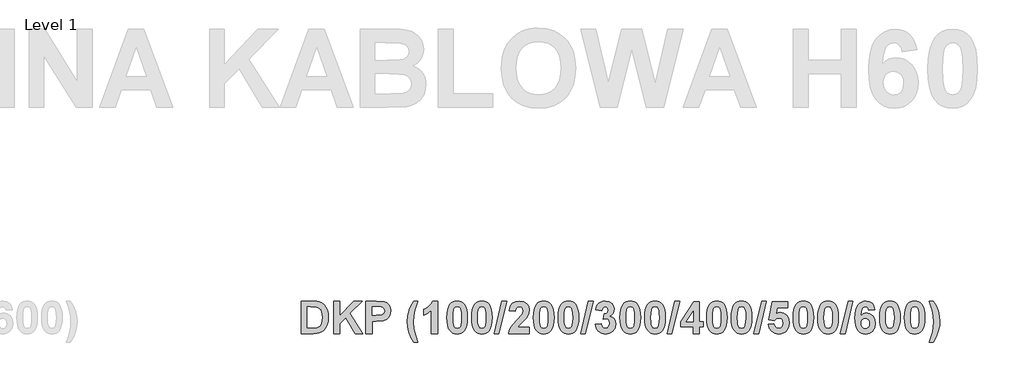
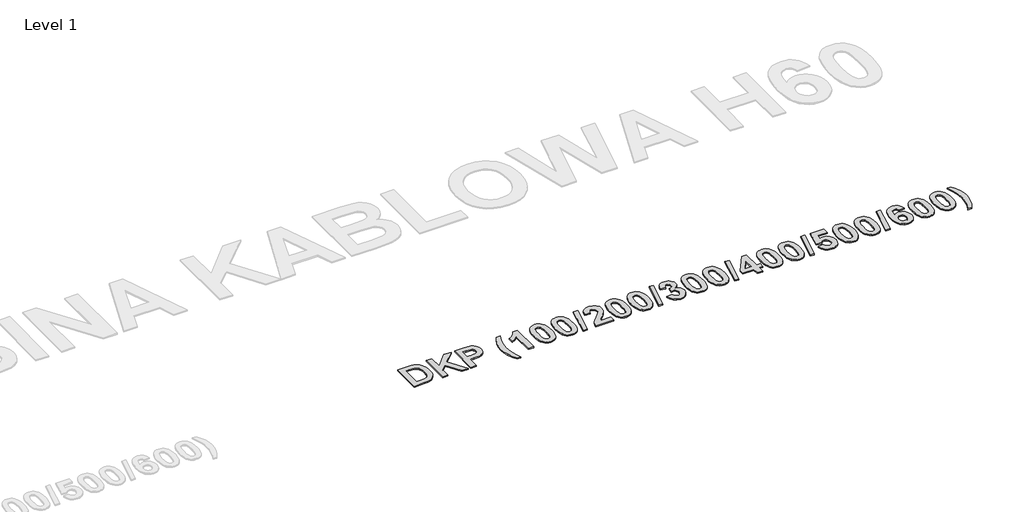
# One storey, part 42 of 42: 1 proxy.
"""IFC4 building model written with IfcOpenShell, lengths in millimetres."""

from ifc_helpers import new_model, si_unit, origin, origin_with_axes, place, context, project, spatial, polyline, outline, extrude, element, save

model = new_model("IFC4")

# Units and contexts
model_context = context("Model", 3, world=origin())
ifc_project = project(units=[si_unit("LENGTHUNIT", "METRE", prefix="MILLI")], contexts=[model_context])

# Site, building, storey
site = spatial("IfcSite", under=ifc_project)
building = spatial("IfcBuilding", under=site)
storey = spatial("IfcBuildingStorey", under=building, Name="Level 1", Elevation=0.0)

# Proxy
placement = place(None, origin())
element("IfcBuildingElementProxy", 1, Name="300mm Arial 2", ObjectType="300mm Arial 2", at=placement, inside=storey, context=model_context, shape_type="SweptSolid", body=[
    extrude(outline(polyline([(37906.8730509, 21442.68636), (38001.3204272, 21442.68636), (38029.4711857, 21441.4686025), (38050.0307284, 21437.8153299), (38070.9382018, 21428.6188883), (38088.6194086, 21414.314191), (38102.7659555, 21395.5575621), (38113.0694494, 21373.0053252), (38119.3559249, 21345.700671), (38121.4514168, 21312.6867899), (38119.4903527, 21283.397349), (38113.6071605, 21258.4095971), (38101.9356662, 21233.2320648), (38086.1522634, 21213.3683835), (38070.3688606, 21201.7601494), (38049.840948, 21192.9986212), (38029.8665615, 21188.9657878), (38004.103873, 21187.62151), (37906.8730509, 21187.62151), (37906.8730509, 21442.68636)]), holes=[polyline([(37955.4568319, 21398.1512275), (37955.4568319, 21232.1566425), (37996.8289578, 21232.1566425), (38030.3568275, 21234.5605275), (38052.719284, 21244.9668192), (38060.7928582, 21254.7009719), (38067.2374841, 21269.1638194), (38071.4600979, 21289.0591308), (38072.8676358, 21315.0906749), (38071.4600979, 21340.7584732), (38067.2374841, 21359.6890675), (38060.4923726, 21373.5430363), (38051.5173415, 21383.980958), (38040.0593502, 21391.2875032), (38025.8653582, 21395.7473425), (37980.3813237, 21398.1512275), (37955.4568319, 21398.1512275)])]), origin_with_axes(), (0.0, 0.0, 1.0), 10.0),
    extrude(outline(polyline([(38161.9379009, 21187.62151), (38161.9379009, 21442.68636), (38210.5216819, 21442.68636), (38210.5216819, 21326.4142384), (38319.9617093, 21442.68636), (38386.6378878, 21442.68636), (38290.1029272, 21345.2657576), (38390.6865362, 21187.62151), (38333.8789382, 21187.62151), (38258.5361216, 21313.3193912), (38210.5216819, 21264.7988704), (38210.5216819, 21187.62151), (38161.9379009, 21187.62151)])), origin_with_axes(), (0.0, 0.0, 1.0), 10.0),
    extrude(outline(polyline([(38417.0027509, 21187.62151), (38417.0027509, 21442.68636), (38499.1776616, 21442.68636), (38560.0971682, 21438.8907521), (38580.1427224, 21429.8366458), (38596.6298941, 21414.0611505), (38607.6608796, 21392.1494225), (38611.3378747, 21364.6866179), (38609.1791227, 21343.2018958), (38602.7028668, 21325.4337064), (38592.8975464, 21311.2318069), (38580.7516011, 21300.4459544), (38553.707895, 21288.3948994), (38499.6204826, 21284.7890719), (38465.5865318, 21284.7890719), (38465.5865318, 21187.62151), (38417.0027509, 21187.62151)]), holes=[polyline([(38465.5865318, 21398.1512275), (38465.5865318, 21329.3242044), (38495.7616145, 21329.3242044), (38539.316215, 21333.1198123), (38556.5229708, 21345.0443471), (38561.196313, 21353.8295979), (38562.7540937, 21363.9274964), (38560.5637117, 21375.9943664), (38553.9925655, 21385.7522417), (38544.0844475, 21392.7424862), (38531.8831496, 21396.506464), (38492.2190472, 21398.1512275), (38465.5865318, 21398.1512275)])]), origin_with_axes(), (0.0, 0.0, 1.0), 10.0),
    extrude(outline(polyline([(38825.9162406, 21118.794487), (38793.5270533, 21118.794487), (38770.8562037, 21158.4664969), (38754.3374018, 21199.6725651), (38744.2553184, 21240.9735234), (38740.8946239, 21280.9302039), (38745.0065324, 21328.3278574), (38757.3422581, 21373.1002154), (38773.5368517, 21409.3799008), (38793.5270533, 21442.68636), (38825.9162406, 21442.68636), (38808.3536466, 21395.4468568), (38797.2910311, 21355.8301995), (38791.4315614, 21318.9495429), (38789.4784049, 21279.9180418), (38794.1596546, 21223.2685941), (38807.0014613, 21168.2006497), (38825.9162406, 21118.794487)])), origin_with_axes(), (0.0, 0.0, 1.0), 10.0),
    extrude(outline(polyline([(38979.7648802, 21187.62151), (38931.1810993, 21187.62151), (38931.1810993, 21369.9372088), (38903.125231, 21346.0565092), (38870.4513731, 21329.3242044), (38870.4513731, 21377.9079854), (38889.9196786, 21386.9937218), (38911.0011174, 21401.7254249), (38929.4572607, 21420.7430019), (38941.0496798, 21442.68636), (38979.7648802, 21442.68636), (38979.7648802, 21187.62151)])), origin_with_axes(), (0.0, 0.0, 1.0), 10.0),
    extrude(outline(polyline([(39133.6135199, 21442.68636), (39150.7451543, 21441.0415966), (39165.892002, 21436.1073063), (39179.0540631, 21427.8834892), (39190.2313376, 21416.3701453), (39200.886716, 21398.2421639), (39208.4977005, 21374.9822043), (39213.0642913, 21346.5902666), (39214.5864882, 21313.0663507), (39213.0563837, 21279.5740648), (39208.4660704, 21251.150497), (39200.8155483, 21227.7956472), (39190.1048173, 21209.5095155), (39178.9828954, 21198.1622294), (39165.8603719, 21190.0570251), (39150.7372467, 21185.1939025), (39133.6135199, 21183.5728616), (39116.3059433, 21185.3520528), (39100.7577891, 21190.6896264), (39086.9690574, 21199.5855824), (39074.939748, 21212.0399207), (39065.1838496, 21229.0608499), (39058.2153507, 21251.6565781), (39054.0342514, 21279.8271054), (39052.6405517, 21313.5724317), (39054.1706561, 21346.8986597), (39058.7609694, 21375.2036148), (39066.4114915, 21398.4872969), (39077.1222225, 21416.7497061), (39088.2441444, 21428.0969922), (39101.3666679, 21436.2021965), (39116.4897931, 21441.0653191), (39133.6135199, 21442.68636)]), holes=[polyline([(39133.6135199, 21398.1512275), (39117.4189263, 21392.8057464), (39111.0929131, 21385.3331433), (39106.4116634, 21373.6062965), (39102.5211653, 21349.4567413), (39101.2243326, 21313.0663507), (39102.37883, 21277.1583186), (39105.8423222, 21254.5823591), (39111.0691906, 21241.3293616), (39117.5138165, 21233.3902151), (39133.6135199, 21228.1079941), (39149.8081136, 21233.4534752), (39156.1341267, 21240.9260783), (39160.8153764, 21252.6529251), (39164.7058745, 21276.6759601), (39166.0027072, 21313.0663507), (39164.8482098, 21348.9348452), (39161.3847176, 21371.5187121), (39156.1578493, 21384.8112472), (39149.7132234, 21392.8057464), (39133.6135199, 21398.1512275)])]), origin_with_axes(), (0.0, 0.0, 1.0), 10.0),
    extrude(outline(polyline([(39327.9486437, 21442.68636), (39345.0802781, 21441.0415966), (39360.2271258, 21436.1073063), (39373.3891869, 21427.8834892), (39384.5664614, 21416.3701453), (39395.2218398, 21398.2421639), (39402.8328243, 21374.9822043), (39407.3994151, 21346.5902666), (39408.921612, 21313.0663507), (39407.3915075, 21279.5740648), (39402.8011943, 21251.150497), (39395.1506721, 21227.7956472), (39384.4399411, 21209.5095155), (39373.3180192, 21198.1622294), (39360.1954957, 21190.0570251), (39345.0723705, 21185.1939025), (39327.9486437, 21183.5728616), (39310.6410671, 21185.3520528), (39295.0929129, 21190.6896264), (39281.3041812, 21199.5855824), (39269.2748718, 21212.0399207), (39259.5189734, 21229.0608499), (39252.5504746, 21251.6565781), (39248.3693752, 21279.8271054), (39246.9756755, 21313.5724317), (39248.5057799, 21346.8986597), (39253.0960932, 21375.2036148), (39260.7466153, 21398.4872969), (39271.4573463, 21416.7497061), (39282.5792682, 21428.0969922), (39295.7017917, 21436.2021965), (39310.8249169, 21441.0653191), (39327.9486437, 21442.68636)]), holes=[polyline([(39327.9486437, 21398.1512275), (39311.7540501, 21392.8057464), (39305.4280369, 21385.3331433), (39300.7467872, 21373.6062965), (39296.8562891, 21349.4567413), (39295.5594564, 21313.0663507), (39296.7139538, 21277.1583186), (39300.177446, 21254.5823591), (39305.4043144, 21241.3293616), (39311.8489403, 21233.3902151), (39327.9486437, 21228.1079941), (39344.1432374, 21233.4534752), (39350.4692505, 21240.9260783), (39355.1505002, 21252.6529251), (39359.0409983, 21276.6759601), (39360.337831, 21313.0663507), (39359.1833336, 21348.9348452), (39355.7198414, 21371.5187121), (39350.4929731, 21384.8112472), (39344.0483472, 21392.8057464), (39327.9486437, 21398.1512275)])]), origin_with_axes(), (0.0, 0.0, 1.0), 10.0),
    extrude(outline(polyline([(39424.2305638, 21187.62151), (39484.96029, 21442.68636), (39522.2837675, 21442.68636), (39461.5540413, 21187.62151), (39424.2305638, 21187.62151)])), origin_with_axes(), (0.0, 0.0, 1.0), 10.0),
    extrude(outline(polyline([(39700.4242977, 21236.205291), (39700.4242977, 21187.62151), (39538.4783612, 21187.62151), (39543.6498769, 21212.1269034), (39553.9770934, 21235.2880191), (39573.1607282, 21261.469806), (39604.9014992, 21295.0372132), (39642.4780173, 21335.7767379), (39649.4998919, 21350.4847184), (39651.8405167, 21365.0029186), (39649.8715451, 21379.1494655), (39643.9646304, 21389.5794797), (39634.5942234, 21396.0082905), (39622.2347752, 21398.1512275), (39609.9623097, 21396.0399206), (39600.47329, 21389.7059999), (39594.0840167, 21378.4852341), (39591.1107905, 21361.7133918), (39542.5270096, 21366.141601), (39551.1303875, 21401.2905115), (39558.7532333, 21414.5296709), (39568.5901837, 21424.878633), (39593.2141899, 21438.2344283), (39623.3101974, 21442.68636), (39655.4463442, 21437.6967171), (39679.8647549, 21422.7277885), (39695.284412, 21400.3416095), (39700.4242977, 21373.1002154), (39694.794146, 21340.9640686), (39676.9547889, 21309.0177023), (39646.7480761, 21277.134596), (39619.0085085, 21249.4899186), (39609.8990496, 21236.205291), (39700.4242977, 21236.205291)])), origin_with_axes(), (0.0, 0.0, 1.0), 10.0),
    extrude(outline(polyline([(39813.7864532, 21442.68636), (39830.9180876, 21441.0415966), (39846.0649353, 21436.1073063), (39859.2269964, 21427.8834892), (39870.4042709, 21416.3701453), (39881.0596493, 21398.2421639), (39888.6706338, 21374.9822043), (39893.2372246, 21346.5902666), (39894.7594215, 21313.0663507), (39893.229317, 21279.5740648), (39888.6390038, 21251.150497), (39880.9884816, 21227.7956472), (39870.2777506, 21209.5095155), (39859.1558287, 21198.1622294), (39846.0333052, 21190.0570251), (39830.9101801, 21185.1939025), (39813.7864532, 21183.5728616), (39796.4788766, 21185.3520528), (39780.9307225, 21190.6896264), (39767.1419907, 21199.5855824), (39755.1126813, 21212.0399207), (39745.3567829, 21229.0608499), (39738.3882841, 21251.6565781), (39734.2071847, 21279.8271054), (39732.813485, 21313.5724317), (39734.3435894, 21346.8986597), (39738.9339027, 21375.2036148), (39746.5844248, 21398.4872969), (39757.2951558, 21416.7497061), (39768.4170777, 21428.0969922), (39781.5396012, 21436.2021965), (39796.6627264, 21441.0653191), (39813.7864532, 21442.68636)]), holes=[polyline([(39813.7864532, 21398.1512275), (39797.5918596, 21392.8057464), (39791.2658464, 21385.3331433), (39786.5845967, 21373.6062965), (39782.6940986, 21349.4567413), (39781.3972659, 21313.0663507), (39782.5517633, 21277.1583186), (39786.0152555, 21254.5823591), (39791.2421239, 21241.3293616), (39797.6867498, 21233.3902151), (39813.7864532, 21228.1079941), (39829.9810469, 21233.4534752), (39836.30706, 21240.9260783), (39840.9883097, 21252.6529251), (39844.8788078, 21276.6759601), (39846.1756405, 21313.0663507), (39845.0211431, 21348.9348452), (39841.5576509, 21371.5187121), (39836.3307826, 21384.8112472), (39829.8861567, 21392.8057464), (39813.7864532, 21398.1512275)])]), origin_with_axes(), (0.0, 0.0, 1.0), 10.0),
    extrude(outline(polyline([(40008.121577, 21442.68636), (40025.2532114, 21441.0415966), (40040.4000591, 21436.1073063), (40053.5621202, 21427.8834892), (40064.7393947, 21416.3701453), (40075.3947731, 21398.2421639), (40083.0057576, 21374.9822043), (40087.5723484, 21346.5902666), (40089.0945453, 21313.0663507), (40087.5644408, 21279.5740648), (40082.9741276, 21251.150497), (40075.3236054, 21227.7956472), (40064.6128744, 21209.5095155), (40053.4909525, 21198.1622294), (40040.368429, 21190.0570251), (40025.2453039, 21185.1939025), (40008.121577, 21183.5728616), (39990.8140004, 21185.3520528), (39975.2658463, 21190.6896264), (39961.4771145, 21199.5855824), (39949.4478051, 21212.0399207), (39939.6919067, 21229.0608499), (39932.7234079, 21251.6565781), (39928.5423085, 21279.8271054), (39927.1486088, 21313.5724317), (39928.6787132, 21346.8986597), (39933.2690265, 21375.2036148), (39940.9195486, 21398.4872969), (39951.6302796, 21416.7497061), (39962.7522015, 21428.0969922), (39975.874725, 21436.2021965), (39990.9978502, 21441.0653191), (40008.121577, 21442.68636)]), holes=[polyline([(40008.121577, 21398.1512275), (39991.9269834, 21392.8057464), (39985.6009702, 21385.3331433), (39980.9197205, 21373.6062965), (39977.0292224, 21349.4567413), (39975.7323897, 21313.0663507), (39976.8868871, 21277.1583186), (39980.3503793, 21254.5823591), (39985.5772477, 21241.3293616), (39992.0218736, 21233.3902151), (40008.121577, 21228.1079941), (40024.3161707, 21233.4534752), (40030.6421838, 21240.9260783), (40035.3234335, 21252.6529251), (40039.2139316, 21276.6759601), (40040.5107643, 21313.0663507), (40039.3562669, 21348.9348452), (40035.8927747, 21371.5187121), (40030.6659064, 21384.8112472), (40024.2212805, 21392.8057464), (40008.121577, 21398.1512275)])]), origin_with_axes(), (0.0, 0.0, 1.0), 10.0),
    extrude(outline(polyline([(40104.4034971, 21187.62151), (40165.1332233, 21442.68636), (40202.4567008, 21442.68636), (40141.7269746, 21187.62151), (40104.4034971, 21187.62151)])), origin_with_axes(), (0.0, 0.0, 1.0), 10.0),
    extrude(outline(polyline([(40218.6512945, 21258.9156782), (40267.2350754, 21264.5458298), (40270.9832382, 21248.9205774), (40278.1790782, 21237.4704936), (40288.0318436, 21230.448619), (40299.750783, 21228.1079941), (40312.3237341, 21230.7886422), (40322.7142107, 21238.8305864), (40329.6886402, 21251.4114451), (40332.01345, 21267.7088364), (40329.8863281, 21283.1284935), (40323.5049623, 21294.9739531), (40314.0554802, 21302.5177237), (40302.7240092, 21305.032314), (40283.4296691, 21301.4264865), (40287.6680979, 21341.4701497), (40301.4983441, 21343.2098033), (40311.6120576, 21349.4409262), (40317.803643, 21359.3095068), (40319.8675048, 21371.961533), (40318.3255391, 21382.7078479), (40313.699642, 21391.0344627), (40306.5117095, 21396.3720363), (40297.2836379, 21398.1512275), (40287.8974159, 21396.0873657), (40279.9819919, 21389.8957803), (40274.2174124, 21379.7346217), (40271.2837238, 21365.7620402), (40222.6999429, 21373.0369553), (40228.2589269, 21394.7747179), (40236.0794607, 21411.6572655), (40246.802053, 21424.5702399), (40261.0672126, 21434.3992828), (40278.0604654, 21440.6145907), (40296.9673372, 21442.68636), (40327.6168709, 21436.9455031), (40340.403325, 21429.7694319), (40351.4975705, 21419.7229323), (40364.2128569, 21399.7011007), (40368.4512857, 21377.212124), (40366.1778748, 21361.2666171), (40359.3576418, 21347.0212262), (40347.990587, 21334.4759514), (40332.0767102, 21323.6307926), (40351.9403914, 21316.0791144), (40367.3758635, 21302.7865793), (40377.2918891, 21284.9234997), (40380.597231, 21263.660188), (40374.7377613, 21232.8920416), (40357.1593523, 21207.0107403), (40344.7228058, 21196.7566684), (40330.8510451, 21189.4323313), (40298.801881, 21183.5728616), (40268.5398156, 21188.7839149), (40243.923717, 21204.4170749), (40226.7090537, 21228.4638324), (40218.6512945, 21258.9156782)])), origin_with_axes(), (0.0, 0.0, 1.0), 10.0),
    extrude(outline(polyline([(40493.9593865, 21442.68636), (40511.0910209, 21441.0415966), (40526.2378686, 21436.1073063), (40539.3999297, 21427.8834892), (40550.5772042, 21416.3701453), (40561.2325826, 21398.2421639), (40568.8435671, 21374.9822043), (40573.4101579, 21346.5902666), (40574.9323548, 21313.0663507), (40573.4022503, 21279.5740648), (40568.8119371, 21251.150497), (40561.1614149, 21227.7956472), (40550.4506839, 21209.5095155), (40539.328762, 21198.1622294), (40526.2062385, 21190.0570251), (40511.0831134, 21185.1939025), (40493.9593865, 21183.5728616), (40476.6518099, 21185.3520528), (40461.1036558, 21190.6896264), (40447.314924, 21199.5855824), (40435.2856146, 21212.0399207), (40425.5297162, 21229.0608499), (40418.5612174, 21251.6565781), (40414.380118, 21279.8271054), (40412.9864183, 21313.5724317), (40414.5165227, 21346.8986597), (40419.106836, 21375.2036148), (40426.7573581, 21398.4872969), (40437.4680891, 21416.7497061), (40448.590011, 21428.0969922), (40461.7125345, 21436.2021965), (40476.8356597, 21441.0653191), (40493.9593865, 21442.68636)]), holes=[polyline([(40493.9593865, 21398.1512275), (40477.7647929, 21392.8057464), (40471.4387797, 21385.3331433), (40466.75753, 21373.6062965), (40462.8670319, 21349.4567413), (40461.5701992, 21313.0663507), (40462.7246966, 21277.1583186), (40466.1881888, 21254.5823591), (40471.4150572, 21241.3293616), (40477.8596831, 21233.3902151), (40493.9593865, 21228.1079941), (40510.1539802, 21233.4534752), (40516.4799933, 21240.9260783), (40521.161243, 21252.6529251), (40525.0517411, 21276.6759601), (40526.3485738, 21313.0663507), (40525.1940764, 21348.9348452), (40521.7305842, 21371.5187121), (40516.5037159, 21384.8112472), (40510.05909, 21392.8057464), (40493.9593865, 21398.1512275)])]), origin_with_axes(), (0.0, 0.0, 1.0), 10.0),
    extrude(outline(polyline([(40688.2945103, 21442.68636), (40705.4261447, 21441.0415966), (40720.5729924, 21436.1073063), (40733.7350535, 21427.8834892), (40744.912328, 21416.3701453), (40755.5677064, 21398.2421639), (40763.1786909, 21374.9822043), (40767.7452817, 21346.5902666), (40769.2674786, 21313.0663507), (40767.7373741, 21279.5740648), (40763.1470609, 21251.150497), (40755.4965387, 21227.7956472), (40744.7858077, 21209.5095155), (40733.6638858, 21198.1622294), (40720.5413623, 21190.0570251), (40705.4182372, 21185.1939025), (40688.2945103, 21183.5728616), (40670.9869337, 21185.3520528), (40655.4387796, 21190.6896264), (40641.6500478, 21199.5855824), (40629.6207384, 21212.0399207), (40619.86484, 21229.0608499), (40612.8963412, 21251.6565781), (40608.7152418, 21279.8271054), (40607.3215421, 21313.5724317), (40608.8516465, 21346.8986597), (40613.4419598, 21375.2036148), (40621.0924819, 21398.4872969), (40631.8032129, 21416.7497061), (40642.9251348, 21428.0969922), (40656.0476583, 21436.2021965), (40671.1707835, 21441.0653191), (40688.2945103, 21442.68636)]), holes=[polyline([(40688.2945103, 21398.1512275), (40672.0999167, 21392.8057464), (40665.7739035, 21385.3331433), (40661.0926538, 21373.6062965), (40657.2021557, 21349.4567413), (40655.905323, 21313.0663507), (40657.0598204, 21277.1583186), (40660.5233126, 21254.5823591), (40665.750181, 21241.3293616), (40672.1948069, 21233.3902151), (40688.2945103, 21228.1079941), (40704.489104, 21233.4534752), (40710.8151171, 21240.9260783), (40715.4963668, 21252.6529251), (40719.3868649, 21276.6759601), (40720.6836976, 21313.0663507), (40719.5292002, 21348.9348452), (40716.065708, 21371.5187121), (40710.8388397, 21384.8112472), (40704.3942138, 21392.8057464), (40688.2945103, 21398.1512275)])]), origin_with_axes(), (0.0, 0.0, 1.0), 10.0),
    extrude(outline(polyline([(40784.5764304, 21187.62151), (40845.3061566, 21442.68636), (40882.6296341, 21442.68636), (40821.8999079, 21187.62151), (40784.5764304, 21187.62151)])), origin_with_axes(), (0.0, 0.0, 1.0), 10.0),
    extrude(outline(polyline([(40987.8944929, 21187.62151), (40987.8944929, 21240.2539394), (40890.726931, 21240.2539394), (40890.726931, 21280.5506431), (40994.3470263, 21438.6377116), (41036.4782738, 21438.6377116), (41036.4782738, 21280.7404235), (41068.8674611, 21280.7404235), (41068.8674611, 21240.2539394), (41036.4782738, 21240.2539394), (41036.4782738, 21187.62151), (40987.8944929, 21187.62151)]), holes=[polyline([(40987.8944929, 21280.7404235), (40987.8944929, 21363.6111957), (40933.6173001, 21280.7404235), (40987.8944929, 21280.7404235)])]), origin_with_axes(), (0.0, 0.0, 1.0), 10.0),
    extrude(outline(polyline([(41174.1323198, 21442.68636), (41191.2639542, 21441.0415966), (41206.4108019, 21436.1073063), (41219.572863, 21427.8834892), (41230.7501375, 21416.3701453), (41241.4055159, 21398.2421639), (41249.0165004, 21374.9822043), (41253.5830912, 21346.5902666), (41255.1052881, 21313.0663507), (41253.5751837, 21279.5740648), (41248.9848704, 21251.150497), (41241.3343482, 21227.7956472), (41230.6236172, 21209.5095155), (41219.5016954, 21198.1622294), (41206.3791718, 21190.0570251), (41191.2560467, 21185.1939025), (41174.1323198, 21183.5728616), (41156.8247432, 21185.3520528), (41141.2765891, 21190.6896264), (41127.4878573, 21199.5855824), (41115.4585479, 21212.0399207), (41105.7026495, 21229.0608499), (41098.7341507, 21251.6565781), (41094.5530514, 21279.8271054), (41093.1593516, 21313.5724317), (41094.689456, 21346.8986597), (41099.2797693, 21375.2036148), (41106.9302914, 21398.4872969), (41117.6410224, 21416.7497061), (41128.7629443, 21428.0969922), (41141.8854678, 21436.2021965), (41157.008593, 21441.0653191), (41174.1323198, 21442.68636)]), holes=[polyline([(41174.1323198, 21398.1512275), (41157.9377262, 21392.8057464), (41151.611713, 21385.3331433), (41146.9304633, 21373.6062965), (41143.0399652, 21349.4567413), (41141.7431325, 21313.0663507), (41142.8976299, 21277.1583186), (41146.3611221, 21254.5823591), (41151.5879905, 21241.3293616), (41158.0326164, 21233.3902151), (41174.1323198, 21228.1079941), (41190.3269135, 21233.4534752), (41196.6529266, 21240.9260783), (41201.3341764, 21252.6529251), (41205.2246744, 21276.6759601), (41206.5215071, 21313.0663507), (41205.3670097, 21348.9348452), (41201.9035175, 21371.5187121), (41196.6766492, 21384.8112472), (41190.2320233, 21392.8057464), (41174.1323198, 21398.1512275)])]), origin_with_axes(), (0.0, 0.0, 1.0), 10.0),
    extrude(outline(polyline([(41368.4674436, 21442.68636), (41385.599078, 21441.0415966), (41400.7459257, 21436.1073063), (41413.9079868, 21427.8834892), (41425.0852613, 21416.3701453), (41435.7406397, 21398.2421639), (41443.3516242, 21374.9822043), (41447.918215, 21346.5902666), (41449.4404119, 21313.0663507), (41447.9103075, 21279.5740648), (41443.3199942, 21251.150497), (41435.669472, 21227.7956472), (41424.958741, 21209.5095155), (41413.8368192, 21198.1622294), (41400.7142956, 21190.0570251), (41385.5911705, 21185.1939025), (41368.4674436, 21183.5728616), (41351.159867, 21185.3520528), (41335.6117129, 21190.6896264), (41321.8229811, 21199.5855824), (41309.7936717, 21212.0399207), (41300.0377733, 21229.0608499), (41293.0692745, 21251.6565781), (41288.8881752, 21279.8271054), (41287.4944754, 21313.5724317), (41289.0245798, 21346.8986597), (41293.6148931, 21375.2036148), (41301.2654152, 21398.4872969), (41311.9761462, 21416.7497061), (41323.0980681, 21428.0969922), (41336.2205916, 21436.2021965), (41351.3437168, 21441.0653191), (41368.4674436, 21442.68636)]), holes=[polyline([(41368.4674436, 21398.1512275), (41352.27285, 21392.8057464), (41345.9468368, 21385.3331433), (41341.2655871, 21373.6062965), (41337.375089, 21349.4567413), (41336.0782563, 21313.0663507), (41337.2327537, 21277.1583186), (41340.6962459, 21254.5823591), (41345.9231143, 21241.3293616), (41352.3677402, 21233.3902151), (41368.4674436, 21228.1079941), (41384.6620373, 21233.4534752), (41390.9880504, 21240.9260783), (41395.6693002, 21252.6529251), (41399.5597982, 21276.6759601), (41400.8566309, 21313.0663507), (41399.7021335, 21348.9348452), (41396.2386413, 21371.5187121), (41391.011773, 21384.8112472), (41384.5671471, 21392.8057464), (41368.4674436, 21398.1512275)])]), origin_with_axes(), (0.0, 0.0, 1.0), 10.0),
    extrude(outline(polyline([(41464.7493637, 21187.62151), (41525.4790899, 21442.68636), (41562.8025674, 21442.68636), (41502.0728412, 21187.62151), (41464.7493637, 21187.62151)])), origin_with_axes(), (0.0, 0.0, 1.0), 10.0),
    extrude(outline(polyline([(41578.9971611, 21259.4217592), (41623.5322936, 21264.5458298), (41627.6758322, 21249.4741035), (41635.9312794, 21237.9133145), (41647.0334325, 21230.5593242), (41659.7170888, 21228.1079941), (41673.9110808, 21230.709567), (41685.7486329, 21238.5142858), (41693.743132, 21251.5537804), (41696.407965, 21269.8596809), (41693.9329124, 21287.0189915), (41686.5077545, 21299.275642), (41675.1130233, 21306.6296323), (41660.7292509, 21309.0809624), (41641.9093618, 21304.0201519), (41625.177057, 21288.8377203), (41583.0458095, 21295.1004733), (41611.3863484, 21438.6377116), (41732.8458008, 21438.6377116), (41732.8458008, 21390.0539306), (41650.67089, 21390.0539306), (41640.8655696, 21343.6842543), (41656.3484868, 21351.1331348), (41672.1793347, 21353.6160949), (41700.2984631, 21347.8673305), (41723.799602, 21330.6210371), (41739.69371, 21304.2020247), (41744.991746, 21270.9351031), (41740.5793518, 21242.009408), (41727.3421693, 21216.3416097), (41714.1247556, 21202.0052824), (41698.5746245, 21191.7650486), (41680.6917761, 21185.6209084), (41660.4762104, 21183.5728616), (41629.4708385, 21188.7127473), (41604.7756646, 21204.1324043), (41587.5610014, 21228.2345144), (41578.9971611, 21259.4217592)])), origin_with_axes(), (0.0, 0.0, 1.0), 10.0),
    extrude(outline(polyline([(41854.3052531, 21442.68636), (41871.4368875, 21441.0415966), (41886.5837352, 21436.1073063), (41899.7457963, 21427.8834892), (41910.9230708, 21416.3701453), (41921.5784492, 21398.2421639), (41929.1894337, 21374.9822043), (41933.7560245, 21346.5902666), (41935.2782214, 21313.0663507), (41933.748117, 21279.5740648), (41929.1578037, 21251.150497), (41921.5072815, 21227.7956472), (41910.7965505, 21209.5095155), (41899.6746287, 21198.1622294), (41886.5521051, 21190.0570251), (41871.42898, 21185.1939025), (41854.3052531, 21183.5728616), (41836.9976765, 21185.3520528), (41821.4495224, 21190.6896264), (41807.6607906, 21199.5855824), (41795.6314812, 21212.0399207), (41785.8755828, 21229.0608499), (41778.907084, 21251.6565781), (41774.7259847, 21279.8271054), (41773.3322849, 21313.5724317), (41774.8623893, 21346.8986597), (41779.4527026, 21375.2036148), (41787.1032247, 21398.4872969), (41797.8139558, 21416.7497061), (41808.9358776, 21428.0969922), (41822.0584011, 21436.2021965), (41837.1815263, 21441.0653191), (41854.3052531, 21442.68636)]), holes=[polyline([(41854.3052531, 21398.1512275), (41838.1106595, 21392.8057464), (41831.7846463, 21385.3331433), (41827.1033966, 21373.6062965), (41823.2128985, 21349.4567413), (41821.9160658, 21313.0663507), (41823.0705632, 21277.1583186), (41826.5340554, 21254.5823591), (41831.7609238, 21241.3293616), (41838.2055497, 21233.3902151), (41854.3052531, 21228.1079941), (41870.4998468, 21233.4534752), (41876.8258599, 21240.9260783), (41881.5071097, 21252.6529251), (41885.3976077, 21276.6759601), (41886.6944404, 21313.0663507), (41885.539943, 21348.9348452), (41882.0764508, 21371.5187121), (41876.8495825, 21384.8112472), (41870.4049566, 21392.8057464), (41854.3052531, 21398.1512275)])]), origin_with_axes(), (0.0, 0.0, 1.0), 10.0),
    extrude(outline(polyline([(42048.6403769, 21442.68636), (42065.7720113, 21441.0415966), (42080.918859, 21436.1073063), (42094.0809201, 21427.8834892), (42105.2581946, 21416.3701453), (42115.913573, 21398.2421639), (42123.5245575, 21374.9822043), (42128.0911483, 21346.5902666), (42129.6133452, 21313.0663507), (42128.0832408, 21279.5740648), (42123.4929275, 21251.150497), (42115.8424053, 21227.7956472), (42105.1316743, 21209.5095155), (42094.0097525, 21198.1622294), (42080.8872289, 21190.0570251), (42065.7641038, 21185.1939025), (42048.6403769, 21183.5728616), (42031.3328003, 21185.3520528), (42015.7846462, 21190.6896264), (42001.9959144, 21199.5855824), (41989.966605, 21212.0399207), (41980.2107066, 21229.0608499), (41973.2422078, 21251.6565781), (41969.0611085, 21279.8271054), (41967.6674087, 21313.5724317), (41969.1975131, 21346.8986597), (41973.7878264, 21375.2036148), (41981.4383485, 21398.4872969), (41992.1490796, 21416.7497061), (42003.2710014, 21428.0969922), (42016.3935249, 21436.2021965), (42031.5166501, 21441.0653191), (42048.6403769, 21442.68636)]), holes=[polyline([(42048.6403769, 21398.1512275), (42032.4457833, 21392.8057464), (42026.1197701, 21385.3331433), (42021.4385204, 21373.6062965), (42017.5480223, 21349.4567413), (42016.2511896, 21313.0663507), (42017.405687, 21277.1583186), (42020.8691792, 21254.5823591), (42026.0960476, 21241.3293616), (42032.5406735, 21233.3902151), (42048.6403769, 21228.1079941), (42064.8349706, 21233.4534752), (42071.1609837, 21240.9260783), (42075.8422335, 21252.6529251), (42079.7327315, 21276.6759601), (42081.0295642, 21313.0663507), (42079.8750668, 21348.9348452), (42076.4115746, 21371.5187121), (42071.1847063, 21384.8112472), (42064.7400804, 21392.8057464), (42048.6403769, 21398.1512275)])]), origin_with_axes(), (0.0, 0.0, 1.0), 10.0),
    extrude(outline(polyline([(42144.922297, 21187.62151), (42205.6520232, 21442.68636), (42242.9755007, 21442.68636), (42182.2457745, 21187.62151), (42144.922297, 21187.62151)])), origin_with_axes(), (0.0, 0.0, 1.0), 10.0),
    extrude(outline(polyline([(42417.0673825, 21374.9980194), (42368.4836015, 21369.8106886), (42365.5103753, 21382.4073622), (42359.8802236, 21391.2242431), (42351.877817, 21396.4194814), (42341.7878261, 21398.1512275), (42328.1868978, 21394.790533), (42316.8633343, 21384.7084495), (42308.560442, 21363.8721437), (42304.0215276, 21328.2487822), (42324.0433592, 21344.2377804), (42348.4301399, 21349.5674465), (42376.2566902, 21343.8740347), (42399.7657365, 21326.7937992), (42415.7784573, 21300.71481), (42421.1160309, 21268.0251371), (42415.6598446, 21233.587903), (42408.8396116, 21219.1982), (42399.2912855, 21206.6944396), (42387.6000225, 21196.5787492), (42374.3509787, 21189.3532561), (42343.1795489, 21183.5728616), (42325.648585, 21185.4390355), (42309.7465695, 21191.0375571), (42295.4735023, 21200.3684265), (42282.8293835, 21213.4316436), (42272.4784445, 21230.7451509), (42265.0849167, 21252.8268905), (42260.6488, 21279.6768625), (42259.1700944, 21311.295067), (42260.714037, 21343.7475144), (42265.3458647, 21371.3289317), (42273.0655776, 21394.0393189), (42283.8731757, 21411.878676), (42297.1479189, 21425.3570377), (42312.2690672, 21434.984439), (42329.2366206, 21440.7608797), (42348.0505791, 21442.68636), (42373.3704467, 21438.353041), (42393.9141744, 21425.353084), (42408.7803053, 21404.0976798), (42417.0673825, 21374.9980194)]), holes=[polyline([(42307.7538753, 21269.1005593), (42310.3791708, 21251.6803006), (42318.2550572, 21238.7673263), (42329.4995455, 21230.7728272), (42342.230647, 21228.1079941), (42354.1235517, 21230.2904687), (42363.8656119, 21236.8378923), (42370.3655904, 21248.3670512), (42372.5322499, 21265.4947318), (42370.1995326, 21283.2471062), (42363.2013805, 21295.5116642), (42352.7081062, 21302.6521515), (42339.8900221, 21305.032314), (42327.4514988, 21302.7549492), (42317.0847447, 21295.922855), (42310.0865927, 21284.6625516), (42307.7538753, 21269.1005593)])]), origin_with_axes(), (0.0, 0.0, 1.0), 10.0),
    extrude(outline(polyline([(42534.4781864, 21442.68636), (42551.6098208, 21441.0415966), (42566.7566685, 21436.1073063), (42579.9187296, 21427.8834892), (42591.0960041, 21416.3701453), (42601.7513825, 21398.2421639), (42609.362367, 21374.9822043), (42613.9289578, 21346.5902666), (42615.4511547, 21313.0663507), (42613.9210503, 21279.5740648), (42609.330737, 21251.150497), (42601.6802148, 21227.7956472), (42590.9694838, 21209.5095155), (42579.847562, 21198.1622294), (42566.7250384, 21190.0570251), (42551.6019133, 21185.1939025), (42534.4781864, 21183.5728616), (42517.1706099, 21185.3520528), (42501.6224557, 21190.6896264), (42487.8337239, 21199.5855824), (42475.8044145, 21212.0399207), (42466.0485161, 21229.0608499), (42459.0800173, 21251.6565781), (42454.898918, 21279.8271054), (42453.5052182, 21313.5724317), (42455.0353226, 21346.8986597), (42459.6256359, 21375.2036148), (42467.2761581, 21398.4872969), (42477.9868891, 21416.7497061), (42489.1088109, 21428.0969922), (42502.2313344, 21436.2021965), (42517.3544596, 21441.0653191), (42534.4781864, 21442.68636)]), holes=[polyline([(42534.4781864, 21398.1512275), (42518.2835928, 21392.8057464), (42511.9575796, 21385.3331433), (42507.2763299, 21373.6062965), (42503.3858318, 21349.4567413), (42502.0889991, 21313.0663507), (42503.2434965, 21277.1583186), (42506.7069887, 21254.5823591), (42511.9338571, 21241.3293616), (42518.378483, 21233.3902151), (42534.4781864, 21228.1079941), (42550.6727801, 21233.4534752), (42556.9987932, 21240.9260783), (42561.680043, 21252.6529251), (42565.570541, 21276.6759601), (42566.8673737, 21313.0663507), (42565.7128763, 21348.9348452), (42562.2493841, 21371.5187121), (42557.0225158, 21384.8112472), (42550.5778899, 21392.8057464), (42534.4781864, 21398.1512275)])]), origin_with_axes(), (0.0, 0.0, 1.0), 10.0),
    extrude(outline(polyline([(42728.8133102, 21442.68636), (42745.9449446, 21441.0415966), (42761.0917923, 21436.1073063), (42774.2538534, 21427.8834892), (42785.4311279, 21416.3701453), (42796.0865063, 21398.2421639), (42803.6974908, 21374.9822043), (42808.2640816, 21346.5902666), (42809.7862785, 21313.0663507), (42808.2561741, 21279.5740648), (42803.6658608, 21251.150497), (42796.0153386, 21227.7956472), (42785.3046076, 21209.5095155), (42774.1826858, 21198.1622294), (42761.0601622, 21190.0570251), (42745.9370371, 21185.1939025), (42728.8133102, 21183.5728616), (42711.5057337, 21185.3520528), (42695.9575795, 21190.6896264), (42682.1688477, 21199.5855824), (42670.1395383, 21212.0399207), (42660.3836399, 21229.0608499), (42653.4151411, 21251.6565781), (42649.2340418, 21279.8271054), (42647.840342, 21313.5724317), (42649.3704464, 21346.8986597), (42653.9607597, 21375.2036148), (42661.6112819, 21398.4872969), (42672.3220129, 21416.7497061), (42683.4439347, 21428.0969922), (42696.5664582, 21436.2021965), (42711.6895834, 21441.0653191), (42728.8133102, 21442.68636)]), holes=[polyline([(42728.8133102, 21398.1512275), (42712.6187166, 21392.8057464), (42706.2927034, 21385.3331433), (42701.6114537, 21373.6062965), (42697.7209556, 21349.4567413), (42696.4241229, 21313.0663507), (42697.5786203, 21277.1583186), (42701.0421125, 21254.5823591), (42706.2689809, 21241.3293616), (42712.7136068, 21233.3902151), (42728.8133102, 21228.1079941), (42745.0079039, 21233.4534752), (42751.333917, 21240.9260783), (42756.0151668, 21252.6529251), (42759.9056648, 21276.6759601), (42761.2024975, 21313.0663507), (42760.0480001, 21348.9348452), (42756.5845079, 21371.5187121), (42751.3576396, 21384.8112472), (42744.9130137, 21392.8057464), (42728.8133102, 21398.1512275)])]), origin_with_axes(), (0.0, 0.0, 1.0), 10.0),
    extrude(outline(polyline([(42842.1754658, 21118.794487), (42860.1729732, 21164.7846026), (42869.8517733, 21201.6968893), (42876.462457, 21241.3926217), (42878.6133015, 21279.9180418), (42876.6680525, 21318.9495429), (42870.8323053, 21355.8301995), (42859.7775974, 21395.4468568), (42842.1754658, 21442.68636), (42874.5646531, 21442.68636), (42896.7610517, 21405.3470674), (42913.3747437, 21365.8253003), (42923.7414978, 21324.9276253), (42927.1970825, 21283.4606092), (42924.4294517, 21246.9595133), (42916.1265595, 21207.9280122), (42899.4100697, 21163.060764), (42874.5646531, 21118.794487), (42842.1754658, 21118.794487)])), origin_with_axes(), (0.0, 0.0, 1.0), 10.0),
])

save(model, "model.ifc")
